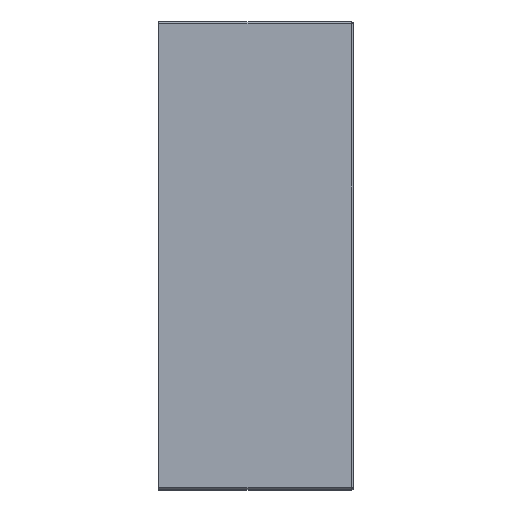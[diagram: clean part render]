
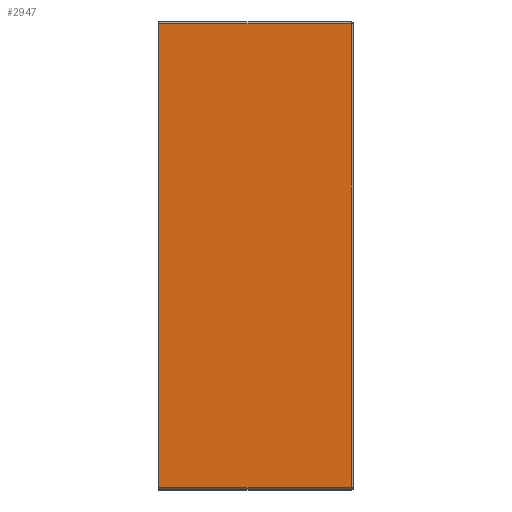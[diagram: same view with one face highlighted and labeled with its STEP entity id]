
A CAD part, top view. The second image highlights one B-rep face of the part: STEP entity #2947.
In plain terms, the highlighted planar face has unit normal (0, 0, 1).
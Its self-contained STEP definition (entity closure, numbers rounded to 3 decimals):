
#215 = FACE_OUTER_BOUND ( 'NONE', #598, .T. ) ;
#479 = ORIENTED_EDGE ( 'NONE', *, *, #3154, .T. ) ;
#480 = ORIENTED_EDGE ( 'NONE', *, *, #3151, .T. ) ;
#481 = ORIENTED_EDGE ( 'NONE', *, *, #3152, .T. ) ;
#482 = ORIENTED_EDGE ( 'NONE', *, *, #3153, .T. ) ;
#598 = EDGE_LOOP ( 'NONE', ( #482, #481, #480, #479 ) ) ;
#894 = CARTESIAN_POINT ( 'NONE',  ( 49.5, -47., 65. ) ) ;
#930 = CARTESIAN_POINT ( 'NONE',  ( 49.5, 72., 65. ) ) ;
#967 = CARTESIAN_POINT ( 'NONE',  ( 0., 72., 65. ) ) ;
#975 = CARTESIAN_POINT ( 'NONE',  ( 0., -47., 65. ) ) ;
#1718 = CARTESIAN_POINT ( 'NONE',  ( 49.5, 72.5, 65. ) ) ;
#1726 = CARTESIAN_POINT ( 'NONE',  ( 50., -47., 65. ) ) ;
#1728 = DIRECTION ( 'NONE',  ( 0., 1., 0. ) ) ;
#1730 = DIRECTION ( 'NONE',  ( 1., 0., 0. ) ) ;
#1731 = CARTESIAN_POINT ( 'NONE',  ( 0., 72.5, 65. ) ) ;
#1732 = DIRECTION ( 'NONE',  ( 0., -1., 0. ) ) ;
#1733 = CARTESIAN_POINT ( 'NONE',  ( 50., 72., 65. ) ) ;
#1734 = DIRECTION ( 'NONE',  ( -1., 0., 0. ) ) ;
#2692 = VECTOR ( 'NONE', #1734, 1000. ) ;
#2731 = LINE ( 'NONE', #1731, #2840 ) ;
#2734 = LINE ( 'NONE', #1733, #2692 ) ;
#2738 = LINE ( 'NONE', #1726, #2747 ) ;
#2747 = VECTOR ( 'NONE', #1730, 1000. ) ;
#2840 = VECTOR ( 'NONE', #1732, 1000. ) ;
#2858 = VECTOR ( 'NONE', #1728, 1000. ) ;
#2860 = LINE ( 'NONE', #1718, #2858 ) ;
#2947 = ADVANCED_FACE ( 'NONE', ( #215 ), #3862, .F. ) ;
#3151 = EDGE_CURVE ( 'NONE', #3687, #3723, #2860, .T. ) ;
#3152 = EDGE_CURVE ( 'NONE', #3768, #3687, #2738, .T. ) ;
#3153 = EDGE_CURVE ( 'NONE', #3760, #3768, #2731, .T. ) ;
#3154 = EDGE_CURVE ( 'NONE', #3723, #3760, #2734, .T. ) ;
#3383 = AXIS2_PLACEMENT_3D ( 'NONE', #3854, #3864, #3865 ) ;
#3687 = VERTEX_POINT ( 'NONE', #894 ) ;
#3723 = VERTEX_POINT ( 'NONE', #930 ) ;
#3760 = VERTEX_POINT ( 'NONE', #967 ) ;
#3768 = VERTEX_POINT ( 'NONE', #975 ) ;
#3854 = CARTESIAN_POINT ( 'NONE',  ( 50., 72.5, 65. ) ) ;
#3862 = PLANE ( 'NONE',  #3383 ) ;
#3864 = DIRECTION ( 'NONE',  ( 0., 0., -1. ) ) ;
#3865 = DIRECTION ( 'NONE',  ( -1., 0., 0. ) ) ;
